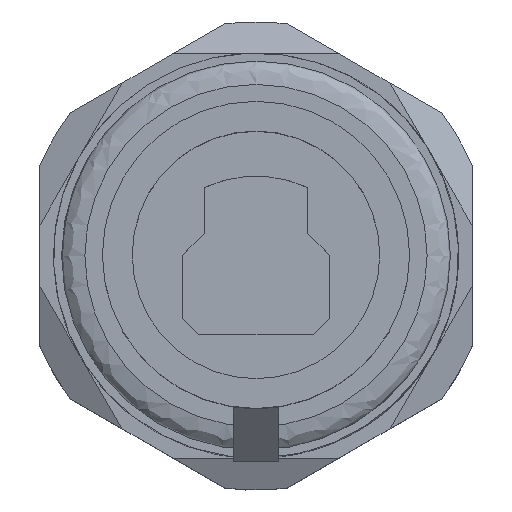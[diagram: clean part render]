
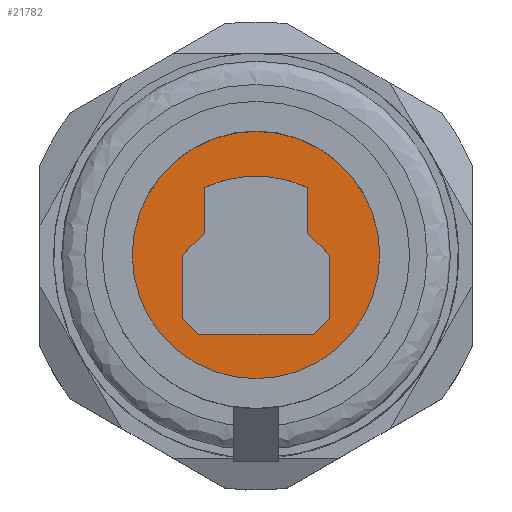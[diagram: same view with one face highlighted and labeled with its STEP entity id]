
A CAD part, top view. The second image highlights one B-rep face of the part: STEP entity #21782.
In plain terms, the highlighted planar face has unit normal (0, 0, 1).
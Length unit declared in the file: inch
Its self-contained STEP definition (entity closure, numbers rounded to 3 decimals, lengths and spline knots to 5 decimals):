
#39=PLANE('',#23022);
#1189=FACE_BOUND('',#4241,.T.);
#3032=FACE_OUTER_BOUND('',#4240,.T.);
#4240=EDGE_LOOP('',(#14782));
#4241=EDGE_LOOP('',(#14783,#14784,#14785,#14786,#14787,#14788,#14789,#14790,
#14791,#14792));
#5468=CIRCLE('',#23023,0.27);
#5469=CIRCLE('',#23024,0.26563);
#5688=LINE('',#36313,#7244);
#5691=LINE('',#36318,#7247);
#5693=LINE('',#36322,#7249);
#5695=LINE('',#36326,#7251);
#5697=LINE('',#36330,#7253);
#5698=LINE('',#36337,#7254);
#5699=LINE('',#36339,#7255);
#5700=LINE('',#36341,#7256);
#5701=LINE('',#36342,#7257);
#7244=VECTOR('',#26285,0.3937);
#7247=VECTOR('',#26290,0.3937);
#7249=VECTOR('',#26294,0.3937);
#7251=VECTOR('',#26298,0.3937);
#7253=VECTOR('',#26302,0.3937);
#7254=VECTOR('',#26309,0.3937);
#7255=VECTOR('',#26310,0.3937);
#7256=VECTOR('',#26311,0.3937);
#7257=VECTOR('',#26312,0.3937);
#8805=VERTEX_POINT('',#36310);
#8806=VERTEX_POINT('',#36312);
#8807=VERTEX_POINT('',#36316);
#8808=VERTEX_POINT('',#36320);
#8809=VERTEX_POINT('',#36324);
#8810=VERTEX_POINT('',#36328);
#8811=VERTEX_POINT('',#36332);
#8812=VERTEX_POINT('',#36334);
#8813=VERTEX_POINT('',#36336);
#8814=VERTEX_POINT('',#36338);
#8815=VERTEX_POINT('',#36340);
#11186=EDGE_CURVE('',#8806,#8805,#5688,.T.);
#11189=EDGE_CURVE('',#8805,#8807,#5691,.T.);
#11191=EDGE_CURVE('',#8807,#8808,#5693,.T.);
#11193=EDGE_CURVE('',#8808,#8809,#5695,.T.);
#11195=EDGE_CURVE('',#8809,#8810,#5697,.T.);
#11196=EDGE_CURVE('',#8811,#8811,#5468,.T.);
#11197=EDGE_CURVE('',#8810,#8812,#5469,.T.);
#11198=EDGE_CURVE('',#8812,#8813,#5698,.T.);
#11199=EDGE_CURVE('',#8813,#8814,#5699,.T.);
#11200=EDGE_CURVE('',#8814,#8815,#5700,.T.);
#11201=EDGE_CURVE('',#8815,#8806,#5701,.T.);
#14782=ORIENTED_EDGE('',*,*,#11196,.F.);
#14783=ORIENTED_EDGE('',*,*,#11186,.T.);
#14784=ORIENTED_EDGE('',*,*,#11189,.T.);
#14785=ORIENTED_EDGE('',*,*,#11191,.T.);
#14786=ORIENTED_EDGE('',*,*,#11193,.T.);
#14787=ORIENTED_EDGE('',*,*,#11195,.T.);
#14788=ORIENTED_EDGE('',*,*,#11197,.T.);
#14789=ORIENTED_EDGE('',*,*,#11198,.T.);
#14790=ORIENTED_EDGE('',*,*,#11199,.T.);
#14791=ORIENTED_EDGE('',*,*,#11200,.T.);
#14792=ORIENTED_EDGE('',*,*,#11201,.T.);
#21782=ADVANCED_FACE('',(#3032,#1189),#39,.T.);
#23022=AXIS2_PLACEMENT_3D('',#36331,#26303,#26304);
#23023=AXIS2_PLACEMENT_3D('',#36333,#26305,#26306);
#23024=AXIS2_PLACEMENT_3D('',#36335,#26307,#26308);
#26285=DIRECTION('',(-1.,0.,0.));
#26290=DIRECTION('',(-0.707,0.707,0.));
#26294=DIRECTION('',(0.,1.,0.));
#26298=DIRECTION('',(0.707,0.707,0.));
#26302=DIRECTION('',(0.,1.,0.));
#26303=DIRECTION('center_axis',(0.,0.,1.));
#26304=DIRECTION('ref_axis',(1.,0.,0.));
#26305=DIRECTION('center_axis',(0.,0.,-1.));
#26306=DIRECTION('ref_axis',(-1.,0.,0.));
#26307=DIRECTION('center_axis',(0.,0.,-1.));
#26308=DIRECTION('ref_axis',(0.424,0.906,0.));
#26309=DIRECTION('',(0.,-1.,0.));
#26310=DIRECTION('',(0.707,-0.707,0.));
#26311=DIRECTION('',(0.,-1.,0.));
#26312=DIRECTION('',(-0.707,-0.707,0.));
#36310=CARTESIAN_POINT('',(18.64617,0.12323,3.06113));
#36312=CARTESIAN_POINT('',(18.89617,0.12323,3.06113));
#36313=CARTESIAN_POINT('',(18.89617,0.12323,3.06113));
#36316=CARTESIAN_POINT('',(18.61117,0.15823,3.06113));
#36318=CARTESIAN_POINT('',(18.64617,0.12323,3.06113));
#36320=CARTESIAN_POINT('',(18.61117,0.29573,3.06113));
#36322=CARTESIAN_POINT('',(18.61117,0.15823,3.06113));
#36324=CARTESIAN_POINT('',(18.65867,0.34323,3.06113));
#36326=CARTESIAN_POINT('',(18.61117,0.29573,3.06113));
#36328=CARTESIAN_POINT('',(18.65867,0.44323,3.06113));
#36330=CARTESIAN_POINT('',(18.65867,0.34323,3.06113));
#36331=CARTESIAN_POINT('Origin',(18.77117,0.56573,3.06113));
#36332=CARTESIAN_POINT('',(19.04117,0.29573,3.06113));
#36333=CARTESIAN_POINT('Origin',(18.77117,0.29573,3.06113));
#36334=CARTESIAN_POINT('',(18.88367,0.44323,3.06113));
#36335=CARTESIAN_POINT('Origin',(18.77117,0.2026,3.06113));
#36336=CARTESIAN_POINT('',(18.88367,0.34323,3.06113));
#36337=CARTESIAN_POINT('',(18.88367,0.44323,3.06113));
#36338=CARTESIAN_POINT('',(18.93117,0.29573,3.06113));
#36339=CARTESIAN_POINT('',(18.88367,0.34323,3.06113));
#36340=CARTESIAN_POINT('',(18.93117,0.15823,3.06113));
#36341=CARTESIAN_POINT('',(18.93117,0.29573,3.06113));
#36342=CARTESIAN_POINT('',(18.93117,0.15823,3.06113));
